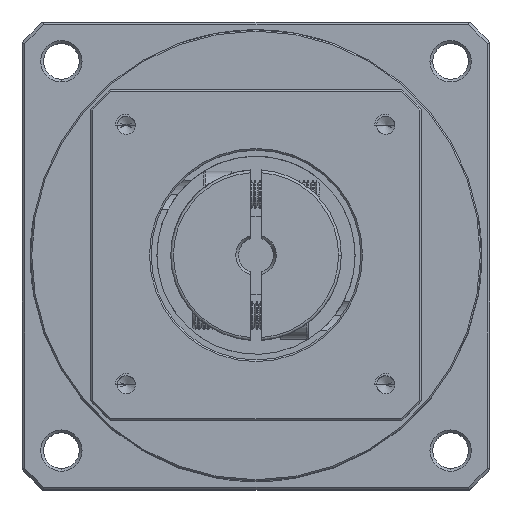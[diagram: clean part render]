
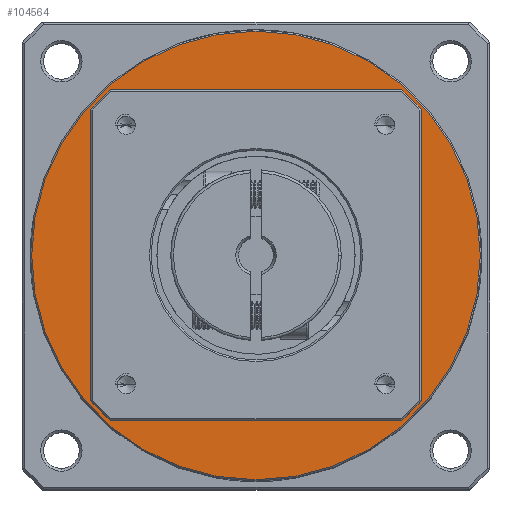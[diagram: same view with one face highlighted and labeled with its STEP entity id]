
A CAD part, top view. The second image highlights one B-rep face of the part: STEP entity #104564.
In plain terms, the highlighted planar face has unit normal (0, 0, 1).
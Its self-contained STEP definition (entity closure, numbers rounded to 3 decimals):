
#3011 = DIRECTION ( 'NONE',  ( 0., 0., -1. ) ) ;
#4314 = CARTESIAN_POINT ( 'NONE',  ( -89.602, 24.503, -29.475 ) ) ;
#4456 = EDGE_CURVE ( 'NONE', #10640, #91960, #25515, .T. ) ;
#5597 = FACE_BOUND ( 'NONE', #29047, .T. ) ;
#9848 = CARTESIAN_POINT ( 'NONE',  ( -59.602, 24.503, -29.475 ) ) ;
#10640 = VERTEX_POINT ( 'NONE', #71618 ) ;
#18131 = DIRECTION ( 'NONE',  ( 0., 1., 0. ) ) ;
#21829 = EDGE_CURVE ( 'NONE', #94150, #69885, #38273, .T. ) ;
#22500 = ORIENTED_EDGE ( 'NONE', *, *, #21829, .T. ) ;
#25515 = CIRCLE ( 'NONE', #84897, 40.75 ) ;
#25688 = CARTESIAN_POINT ( 'NONE',  ( -59.602, 24.503, -29.475 ) ) ;
#26976 = CIRCLE ( 'NONE', #100911, 30. ) ;
#29047 = EDGE_LOOP ( 'NONE', ( #90022, #22500 ) ) ;
#29388 = DIRECTION ( 'NONE',  ( 0., 0., -1. ) ) ;
#32228 = CARTESIAN_POINT ( 'NONE',  ( -29.602, 24.503, -29.475 ) ) ;
#34137 = DIRECTION ( 'NONE',  ( 1., 0., 0. ) ) ;
#38273 = CIRCLE ( 'NONE', #91507, 30. ) ;
#47302 = FACE_OUTER_BOUND ( 'NONE', #89911, .T. ) ;
#48750 = CIRCLE ( 'NONE', #107101, 40.75 ) ;
#52880 = CARTESIAN_POINT ( 'NONE',  ( -59.602, 24.503, -29.475 ) ) ;
#61326 = DIRECTION ( 'NONE',  ( -1., 0., 0. ) ) ;
#66964 = ORIENTED_EDGE ( 'NONE', *, *, #4456, .F. ) ;
#67842 = DIRECTION ( 'NONE',  ( 0., 1., 0. ) ) ;
#68187 = DIRECTION ( 'NONE',  ( 0., 0., -1. ) ) ;
#68244 = AXIS2_PLACEMENT_3D ( 'NONE', #25688, #84006, #34137 ) ;
#68668 = DIRECTION ( 'NONE',  ( 0., 0., -1. ) ) ;
#69295 = CARTESIAN_POINT ( 'NONE',  ( -59.602, 24.503, -29.475 ) ) ;
#69885 = VERTEX_POINT ( 'NONE', #4314 ) ;
#71618 = CARTESIAN_POINT ( 'NONE',  ( -59.602, -16.247, -29.475 ) ) ;
#73365 = EDGE_CURVE ( 'NONE', #69885, #94150, #26976, .T. ) ;
#77894 = EDGE_CURVE ( 'NONE', #91960, #10640, #48750, .T. ) ;
#79314 = CARTESIAN_POINT ( 'NONE',  ( -59.602, 24.503, -29.475 ) ) ;
#81176 = CARTESIAN_POINT ( 'NONE',  ( -59.602, 65.253, -29.475 ) ) ;
#84006 = DIRECTION ( 'NONE',  ( 0., 0., 1. ) ) ;
#84897 = AXIS2_PLACEMENT_3D ( 'NONE', #69295, #68668, #67842 ) ;
#87651 = DIRECTION ( 'NONE',  ( -1., 0., 0. ) ) ;
#89911 = EDGE_LOOP ( 'NONE', ( #99963, #66964 ) ) ;
#90022 = ORIENTED_EDGE ( 'NONE', *, *, #73365, .T. ) ;
#91507 = AXIS2_PLACEMENT_3D ( 'NONE', #79314, #29388, #87651 ) ;
#91960 = VERTEX_POINT ( 'NONE', #81176 ) ;
#94150 = VERTEX_POINT ( 'NONE', #32228 ) ;
#99963 = ORIENTED_EDGE ( 'NONE', *, *, #77894, .F. ) ;
#100160 = PLANE ( 'NONE',  #68244 ) ;
#100911 = AXIS2_PLACEMENT_3D ( 'NONE', #52880, #3011, #61326 ) ;
#104564 = ADVANCED_FACE ( 'NONE', ( #47302, #5597 ), #100160, .T. ) ;
#107101 = AXIS2_PLACEMENT_3D ( 'NONE', #9848, #68187, #18131 ) ;
